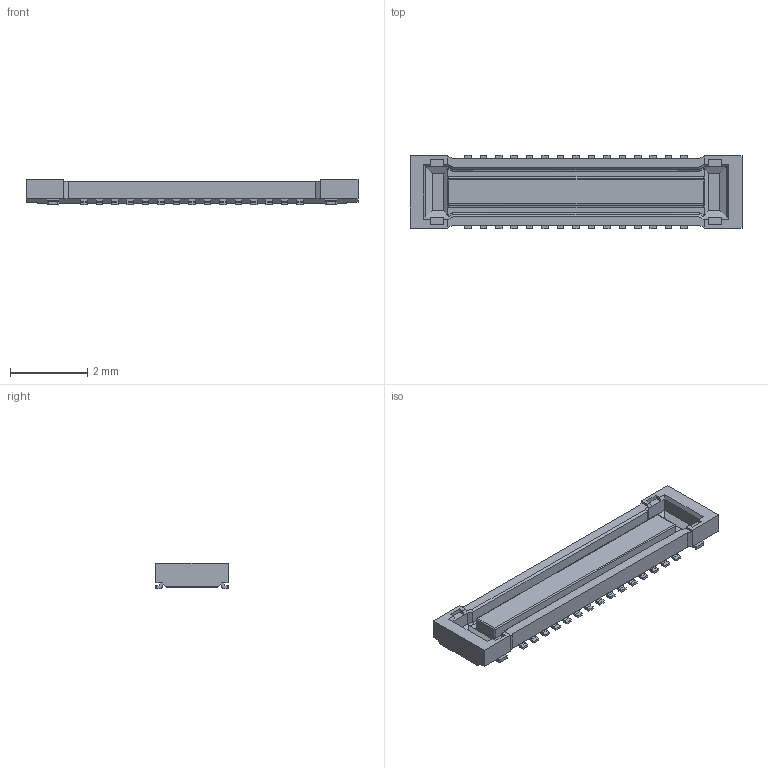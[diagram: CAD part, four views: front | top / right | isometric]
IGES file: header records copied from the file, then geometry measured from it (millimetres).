
Start section: START RECORD GO HERE.
Global section: file name: 20_5807_030_002_829_+.igs; native system: DASSAULT SYSTEMES CATIA Version 5-6 Release 2014 - www.3ds.com; preprocessor: V5-6R2014_5.24.4.0.09-01-2014.20.00; author: user; organization: CATIA11; date: 20160329.150322; units: millimetre
Bounding box: 8.6 x 1.9 x 0.66 mm (x, y, z)
Surface area: 58.1 mm2 (no closed solid volume)
Topology: 0 solids, 0 shells, 444 faces, 2448 edges, 2448 vertices
Faces by surface type: plane 348, revolution 96
